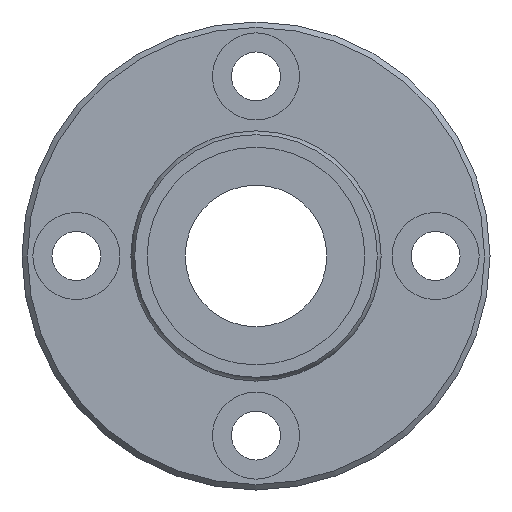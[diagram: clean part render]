
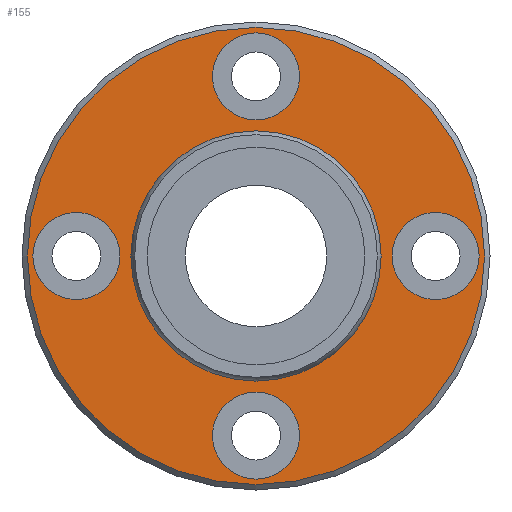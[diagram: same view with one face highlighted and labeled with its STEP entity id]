
A CAD part, left-side view. The second image highlights one B-rep face of the part: STEP entity #155.
In plain terms, the highlighted planar face has unit normal (-1, 0, 0).
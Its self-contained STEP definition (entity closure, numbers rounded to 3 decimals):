
#60=CARTESIAN_POINT('',(27.0,0.,21.));
#61=VERTEX_POINT('',#60);
#62=CARTESIAN_POINT('',(27.0,0.0,0.0));
#63=DIRECTION('',(1.0,0.0,0.0));
#64=DIRECTION('',(0.0,0.0,-1.0));
#65=AXIS2_PLACEMENT_3D('',#62,#63,#64);
#66=CIRCLE('',#65,21.);
#67=EDGE_CURVE('',#61,#61,#66,.T.);
#92=CARTESIAN_POINT('',(27.0,0.0,16.393));
#93=DIRECTION('',(-1.0,0.0,0.0));
#94=DIRECTION('',(0.0,0.0,1.0));
#95=AXIS2_PLACEMENT_3D('',#92,#93,#94);
#96=PLANE('',#95);
#97=ORIENTED_EDGE('',*,*,#67,.F.);
#98=EDGE_LOOP('',(#97));
#99=FACE_OUTER_BOUND('',#98,.T.);
#100=CARTESIAN_POINT('',(27.0,0.0,11.286));
#101=VERTEX_POINT('',#100);
#102=CARTESIAN_POINT('',(27.0,0.0,0.0));
#103=DIRECTION('',(-1.0,0.0,0.0));
#104=DIRECTION('',(0.0,0.0,1.0));
#105=AXIS2_PLACEMENT_3D('',#102,#103,#104);
#106=CIRCLE('',#105,11.286);
#107=EDGE_CURVE('',#101,#101,#106,.T.);
#108=ORIENTED_EDGE('',*,*,#107,.F.);
#109=EDGE_LOOP('',(#108));
#110=FACE_BOUND('',#109,.T.);
#111=CARTESIAN_POINT('',(27.0,-12.5,0.));
#112=VERTEX_POINT('',#111);
#113=CARTESIAN_POINT('',(27.0,-16.5,0.));
#114=DIRECTION('',(1.0,0.0,0.0));
#115=DIRECTION('',(0.0,1.0,0.0));
#116=AXIS2_PLACEMENT_3D('',#113,#114,#115);
#117=CIRCLE('',#116,4.0);
#118=EDGE_CURVE('',#112,#112,#117,.T.);
#119=ORIENTED_EDGE('',*,*,#118,.T.);
#120=EDGE_LOOP('',(#119));
#121=FACE_BOUND('',#120,.T.);
#122=CARTESIAN_POINT('',(27.0,20.5,0.));
#123=VERTEX_POINT('',#122);
#124=CARTESIAN_POINT('',(27.0,16.5,0.));
#125=DIRECTION('',(1.0,0.0,0.0));
#126=DIRECTION('',(0.0,1.0,0.0));
#127=AXIS2_PLACEMENT_3D('',#124,#125,#126);
#128=CIRCLE('',#127,4.0);
#129=EDGE_CURVE('',#123,#123,#128,.T.);
#130=ORIENTED_EDGE('',*,*,#129,.T.);
#131=EDGE_LOOP('',(#130));
#132=FACE_BOUND('',#131,.T.);
#133=CARTESIAN_POINT('',(27.0,4.,16.5));
#134=VERTEX_POINT('',#133);
#135=CARTESIAN_POINT('',(27.0,0.,16.5));
#136=DIRECTION('',(1.0,0.0,0.0));
#137=DIRECTION('',(0.0,1.0,0.0));
#138=AXIS2_PLACEMENT_3D('',#135,#136,#137);
#139=CIRCLE('',#138,4.0);
#140=EDGE_CURVE('',#134,#134,#139,.T.);
#141=ORIENTED_EDGE('',*,*,#140,.T.);
#142=EDGE_LOOP('',(#141));
#143=FACE_BOUND('',#142,.T.);
#144=CARTESIAN_POINT('',(27.0,4.,-16.5));
#145=VERTEX_POINT('',#144);
#146=CARTESIAN_POINT('',(27.0,0.,-16.5));
#147=DIRECTION('',(1.0,0.0,0.0));
#148=DIRECTION('',(0.0,1.0,0.0));
#149=AXIS2_PLACEMENT_3D('',#146,#147,#148);
#150=CIRCLE('',#149,4.0);
#151=EDGE_CURVE('',#145,#145,#150,.T.);
#152=ORIENTED_EDGE('',*,*,#151,.T.);
#153=EDGE_LOOP('',(#152));
#154=FACE_BOUND('',#153,.T.);
#155=ADVANCED_FACE('',(#99,#110,#121,#132,#143,#154),#96,.T.);
